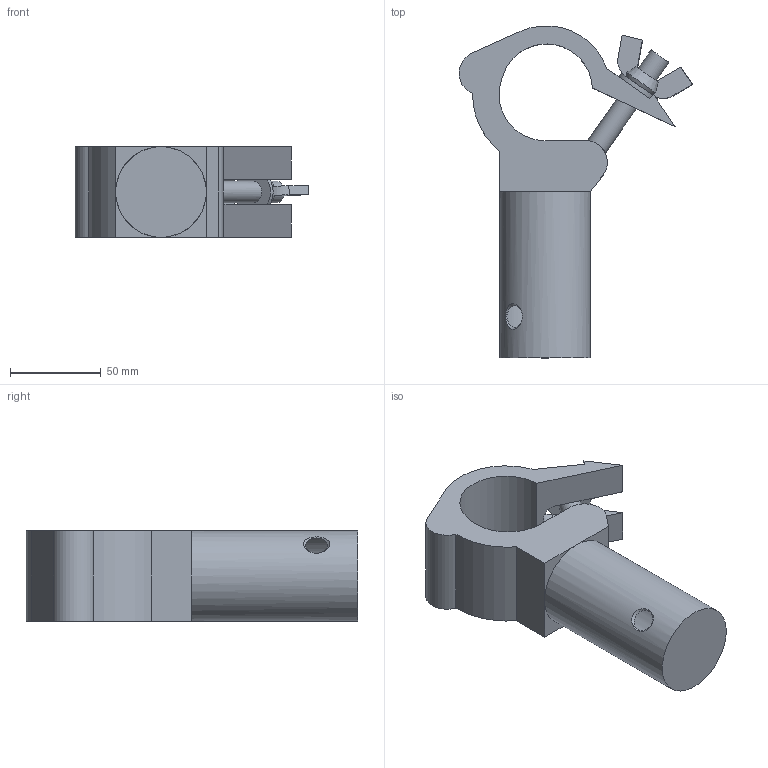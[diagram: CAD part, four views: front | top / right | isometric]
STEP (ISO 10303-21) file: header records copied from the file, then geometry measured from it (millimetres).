
FILE_DESCRIPTION(/* description */ (''),/* implementation_level */ '2;1');
FILE_NAME(/* name */ 'K:\Techniek\CAD Tekeningen\Inventor transport\Cas\Cad Blokken\Catalogus\CS1-DCxx\CS1-DC12.stp',/* time_stamp */ '2021-06-22T09:46:24+02:00',/* author */ ('Cas'),/* organization */ (''),/* preprocessor_version */ 'ST-DEVELOPER v18',/* originating_system */ 'Autodesk Inventor 2020',/* authorisation */ '');
FILE_SCHEMA (('AUTOMOTIVE_DESIGN { 1 0 10303 214 3 1 1 }'));
Length unit declared in the file: millimetre
Products named in the file (1): CS1-DC12
Bounding box: 129.13 x 183.33 x 50 mm (x, y, z)
Volume: 367313.4 mm3; surface area: 52548.8 mm2
Topology: 1 solids, 1 shells, 58 faces, 159 edges, 102 vertices
Faces by surface type: plane 37, cylinder 15, cone 6
Full cylindrical faces by diameter (mm): 12 x2, 50 x1
Entity records: 2095 total; most frequent: CARTESIAN_POINT 452, ORIENTED_EDGE 326, DIRECTION 307, EDGE_CURVE 163, AXIS2_PLACEMENT_3D 103, VERTEX_POINT 102, LINE 101, VECTOR 101
